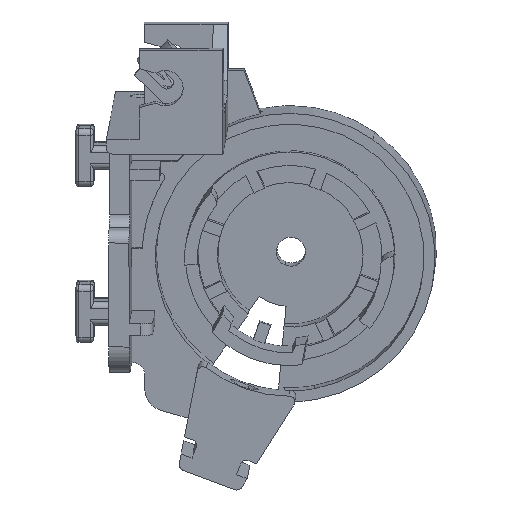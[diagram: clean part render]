
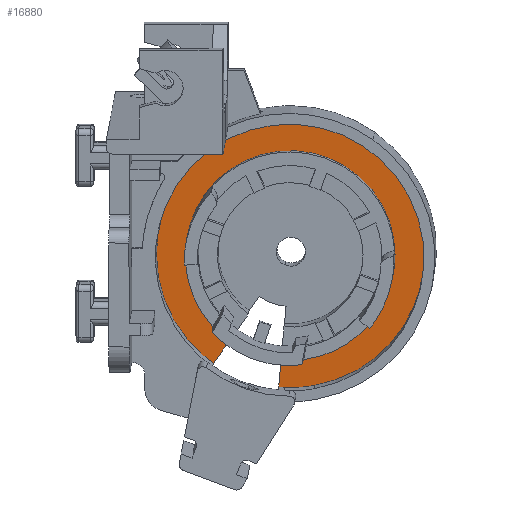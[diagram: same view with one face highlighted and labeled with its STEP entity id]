
A CAD part, left-side view. The second image highlights one B-rep face of the part: STEP entity #16880.
In plain terms, the highlighted planar face has unit normal (-0.992, 0.023, -0.123).
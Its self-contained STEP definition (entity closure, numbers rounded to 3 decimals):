
#5657=AXIS2_PLACEMENT_3D('Circle Axis2P3D',#5655,#5656,$) ;
#13376=AXIS2_PLACEMENT_3D('Circle Axis2P3D',#13374,#13375,$) ;
#13383=AXIS2_PLACEMENT_3D('Circle Axis2P3D',#13381,#13382,$) ;
#13780=AXIS2_PLACEMENT_3D('Circle Axis2P3D',#13778,#13779,$) ;
#13789=AXIS2_PLACEMENT_3D('Circle Axis2P3D',#13787,#13788,$) ;
#13804=AXIS2_PLACEMENT_3D('Circle Axis2P3D',#13802,#13803,$) ;
#13811=AXIS2_PLACEMENT_3D('Circle Axis2P3D',#13809,#13810,$) ;
#13818=AXIS2_PLACEMENT_3D('Circle Axis2P3D',#13816,#13817,$) ;
#16595=AXIS2_PLACEMENT_3D('Circle Axis2P3D',#16593,#16594,$) ;
#16639=AXIS2_PLACEMENT_3D('Circle Axis2P3D',#16637,#16638,$) ;
#16659=AXIS2_PLACEMENT_3D('Circle Axis2P3D',#16657,#16658,$) ;
#16666=AXIS2_PLACEMENT_3D('Circle Axis2P3D',#16664,#16665,$) ;
#16686=AXIS2_PLACEMENT_3D('Circle Axis2P3D',#16684,#16685,$) ;
#16844=AXIS2_PLACEMENT_3D('Plane Axis2P3D',#16841,#16842,#16843) ;
#2754=CARTESIAN_POINT('Vertex',(1129.008,-929.096,239.146)) ;
#2757=CARTESIAN_POINT('Line Origine',(1128.697,-929.313,241.617)) ;
#2761=CARTESIAN_POINT('Vertex',(1128.386,-929.53,244.088)) ;
#5652=CARTESIAN_POINT('Vertex',(1128.828,-935.292,239.414)) ;
#5655=CARTESIAN_POINT('Axis2P3D Location',(1126.146,-931.093,261.88)) ;
#5659=CARTESIAN_POINT('Vertex',(1128.994,-930.096,239.067)) ;
#13371=CARTESIAN_POINT('Vertex',(1127.069,-945.848,251.61)) ;
#13374=CARTESIAN_POINT('Axis2P3D Location',(1126.146,-931.093,261.88)) ;
#13378=CARTESIAN_POINT('Vertex',(1125.725,-949.089,261.851)) ;
#13381=CARTESIAN_POINT('Axis2P3D Location',(1126.146,-931.093,261.88)) ;
#13385=CARTESIAN_POINT('Vertex',(1125.223,-916.339,272.149)) ;
#13778=CARTESIAN_POINT('Axis2P3D Location',(1126.146,-931.093,261.88)) ;
#13782=CARTESIAN_POINT('Vertex',(1128.244,-934.378,244.307)) ;
#13784=CARTESIAN_POINT('Vertex',(1128.374,-930.313,244.035)) ;
#13787=CARTESIAN_POINT('Axis2P3D Location',(1126.146,-931.093,261.88)) ;
#13802=CARTESIAN_POINT('Axis2P3D Location',(1126.146,-931.093,261.88)) ;
#13806=CARTESIAN_POINT('Vertex',(1126.567,-913.098,261.908)) ;
#13809=CARTESIAN_POINT('Axis2P3D Location',(1126.146,-931.093,261.88)) ;
#13813=CARTESIAN_POINT('Vertex',(1127.876,-917.211,250.553)) ;
#13816=CARTESIAN_POINT('Axis2P3D Location',(1126.146,-931.093,261.88)) ;
#13820=CARTESIAN_POINT('Vertex',(1128.198,-920.776,247.274)) ;
#16508=CARTESIAN_POINT('Vertex',(1128.992,-930.097,239.078)) ;
#16512=CARTESIAN_POINT('Control Point',(1128.992,-930.097,239.078)) ;
#16513=CARTESIAN_POINT('Control Point',(1128.994,-930.096,239.067)) ;
#16590=CARTESIAN_POINT('Vertex',(1126.755,-952.282,252.923)) ;
#16593=CARTESIAN_POINT('Axis2P3D Location',(1126.146,-931.093,261.88)) ;
#16615=CARTESIAN_POINT('Vertex',(1125.538,-909.905,270.837)) ;
#16619=CARTESIAN_POINT('Control Point',(1125.608,-954.099,261.843)) ;
#16620=CARTESIAN_POINT('Control Point',(1125.221,-954.095,264.972)) ;
#16621=CARTESIAN_POINT('Control Point',(1124.846,-953.551,268.102)) ;
#16622=CARTESIAN_POINT('Control Point',(1124.499,-952.467,271.11)) ;
#16623=CARTESIAN_POINT('Control Point',(1123.89,-949.307,276.639)) ;
#16624=CARTESIAN_POINT('Control Point',(1123.487,-944.477,280.815)) ;
#16625=CARTESIAN_POINT('Control Point',(1123.347,-941.723,282.469)) ;
#16626=CARTESIAN_POINT('Control Point',(1123.202,-935.758,284.776)) ;
#16627=CARTESIAN_POINT('Control Point',(1123.327,-929.365,284.984)) ;
#16628=CARTESIAN_POINT('Control Point',(1123.458,-926.182,284.538)) ;
#16629=CARTESIAN_POINT('Control Point',(1123.843,-920.103,282.582)) ;
#16630=CARTESIAN_POINT('Control Point',(1124.44,-915.032,278.728)) ;
#16631=CARTESIAN_POINT('Control Point',(1124.781,-912.858,276.383)) ;
#16632=CARTESIAN_POINT('Control Point',(1125.152,-911.133,273.715)) ;
#16633=CARTESIAN_POINT('Control Point',(1125.538,-909.905,270.837)) ;
#16634=CARTESIAN_POINT('Vertex',(1125.608,-954.099,261.843)) ;
#16637=CARTESIAN_POINT('Axis2P3D Location',(1126.146,-931.093,261.88)) ;
#16654=CARTESIAN_POINT('Vertex',(1128.358,-913.346,247.4)) ;
#16657=CARTESIAN_POINT('Axis2P3D Location',(1126.146,-931.093,261.88)) ;
#16661=CARTESIAN_POINT('Vertex',(1126.685,-908.088,261.916)) ;
#16664=CARTESIAN_POINT('Axis2P3D Location',(1126.146,-931.093,261.88)) ;
#16684=CARTESIAN_POINT('Axis2P3D Location',(1126.146,-931.093,261.88)) ;
#16688=CARTESIAN_POINT('Vertex',(1128.769,-917.903,243.207)) ;
#16828=CARTESIAN_POINT('Control Point',(1128.386,-929.53,244.088)) ;
#16829=CARTESIAN_POINT('Control Point',(1128.382,-929.791,244.065)) ;
#16830=CARTESIAN_POINT('Control Point',(1128.378,-930.052,244.047)) ;
#16831=CARTESIAN_POINT('Control Point',(1128.374,-930.313,244.035)) ;
#16841=CARTESIAN_POINT('Axis2P3D Location',(1127.858,-938.824,246.576)) ;
#16847=CARTESIAN_POINT('Control Point',(1128.992,-930.097,239.078)) ;
#16848=CARTESIAN_POINT('Control Point',(1128.996,-929.896,239.087)) ;
#16849=CARTESIAN_POINT('Control Point',(1128.999,-929.696,239.099)) ;
#16850=CARTESIAN_POINT('Control Point',(1129.002,-929.496,239.112)) ;
#16851=CARTESIAN_POINT('Control Point',(1129.005,-929.296,239.128)) ;
#16852=CARTESIAN_POINT('Control Point',(1129.008,-929.096,239.146)) ;
#16854=CARTESIAN_POINT('Line Origine',(1128.483,-919.34,245.24)) ;
#2758=DIRECTION('Vector Direction',(0.124,0.087,-0.988)) ;
#5656=DIRECTION('Axis2P3D Direction',(0.992,-0.023,0.123)) ;
#13375=DIRECTION('Axis2P3D Direction',(-0.992,0.023,-0.123)) ;
#13382=DIRECTION('Axis2P3D Direction',(-0.992,0.023,-0.123)) ;
#13779=DIRECTION('Axis2P3D Direction',(-0.992,0.023,-0.123)) ;
#13788=DIRECTION('Axis2P3D Direction',(-0.992,0.023,-0.123)) ;
#13803=DIRECTION('Axis2P3D Direction',(-0.992,0.023,-0.123)) ;
#13810=DIRECTION('Axis2P3D Direction',(-0.992,0.023,-0.123)) ;
#13817=DIRECTION('Axis2P3D Direction',(-0.992,0.023,-0.123)) ;
#16594=DIRECTION('Axis2P3D Direction',(-0.992,0.023,-0.123)) ;
#16638=DIRECTION('Axis2P3D Direction',(-0.992,0.023,-0.123)) ;
#16658=DIRECTION('Axis2P3D Direction',(-0.992,0.023,-0.123)) ;
#16665=DIRECTION('Axis2P3D Direction',(-0.992,0.023,-0.123)) ;
#16685=DIRECTION('Axis2P3D Direction',(-0.992,0.023,-0.123)) ;
#16842=DIRECTION('Axis2P3D Direction',(-0.992,0.023,-0.123)) ;
#16843=DIRECTION('Axis2P3D XDirection',(-0.026,0.921,0.389)) ;
#16855=DIRECTION('Vector Direction',(-0.114,-0.573,0.811)) ;
#2759=VECTOR('Line Direction',#2758,1.) ;
#16856=VECTOR('Line Direction',#16855,1.) ;
#16860=ORIENTED_EDGE('',*,*,#13822,.F.) ;
#16861=ORIENTED_EDGE('',*,*,#13815,.T.) ;
#16862=ORIENTED_EDGE('',*,*,#13808,.T.) ;
#16863=ORIENTED_EDGE('',*,*,#13387,.T.) ;
#16864=ORIENTED_EDGE('',*,*,#13380,.T.) ;
#16865=ORIENTED_EDGE('',*,*,#13791,.T.) ;
#16866=ORIENTED_EDGE('',*,*,#13786,.T.) ;
#16867=ORIENTED_EDGE('',*,*,#16832,.F.) ;
#16868=ORIENTED_EDGE('',*,*,#2763,.T.) ;
#16869=ORIENTED_EDGE('',*,*,#16853,.F.) ;
#16870=ORIENTED_EDGE('',*,*,#16514,.F.) ;
#16871=ORIENTED_EDGE('',*,*,#5661,.F.) ;
#16872=ORIENTED_EDGE('',*,*,#16597,.T.) ;
#16873=ORIENTED_EDGE('',*,*,#16641,.F.) ;
#16874=ORIENTED_EDGE('',*,*,#16636,.F.) ;
#16875=ORIENTED_EDGE('',*,*,#16668,.T.) ;
#16876=ORIENTED_EDGE('',*,*,#16663,.T.) ;
#16877=ORIENTED_EDGE('',*,*,#16690,.T.) ;
#16878=ORIENTED_EDGE('',*,*,#16858,.F.) ;
#16880=ADVANCED_FACE('20200707\X2\66F465B0\X0\',(#16879),#16845,.T.) ;
#16511=B_SPLINE_CURVE_WITH_KNOTS('',1,(#16512,#16513),.UNSPECIFIED.,.F.,.U.,(2,2),(5.,5.012),.UNSPECIFIED.) ;
#16618=B_SPLINE_CURVE_WITH_KNOTS('',5,(#16619,#16620,#16621,#16622,#16623,#16624,#16625,#16626,#16627,#16628,#16629,#16630,#16631,#16632,#16633),.UNSPECIFIED.,.F.,.U.,(6,3,3,3,6),(-137.008,-68.504,0.,68.504,137.008),.UNSPECIFIED.) ;
#16827=B_SPLINE_CURVE_WITH_KNOTS('',3,(#16828,#16829,#16830,#16831),.UNSPECIFIED.,.F.,.U.,(4,4),(0.,1.111),.UNSPECIFIED.) ;
#16846=B_SPLINE_CURVE_WITH_KNOTS('',5,(#16847,#16848,#16849,#16850,#16851,#16852),.UNSPECIFIED.,.F.,.U.,(6,6),(0.,1.419),.UNSPECIFIED.) ;
#5658=CIRCLE('generated circle',#5657,23.012) ;
#13377=CIRCLE('generated circle',#13376,18.) ;
#13384=CIRCLE('generated circle',#13383,18.) ;
#13781=CIRCLE('generated circle',#13780,18.) ;
#13790=CIRCLE('generated circle',#13789,18.) ;
#13805=CIRCLE('generated circle',#13804,18.) ;
#13812=CIRCLE('generated circle',#13811,18.) ;
#13819=CIRCLE('generated circle',#13818,18.) ;
#16596=CIRCLE('generated circle',#16595,23.012) ;
#16640=CIRCLE('generated circle',#16639,23.012) ;
#16660=CIRCLE('generated circle',#16659,23.012) ;
#16667=CIRCLE('generated circle',#16666,23.012) ;
#16687=CIRCLE('generated circle',#16686,23.012) ;
#2763=EDGE_CURVE('',#2762,#2755,#2760,.T.) ;
#5661=EDGE_CURVE('',#5653,#5660,#5658,.T.) ;
#13380=EDGE_CURVE('',#13379,#13372,#13377,.F.) ;
#13387=EDGE_CURVE('',#13386,#13379,#13384,.F.) ;
#13786=EDGE_CURVE('',#13783,#13785,#13781,.F.) ;
#13791=EDGE_CURVE('',#13372,#13783,#13790,.F.) ;
#13808=EDGE_CURVE('',#13807,#13386,#13805,.F.) ;
#13815=EDGE_CURVE('',#13814,#13807,#13812,.F.) ;
#13822=EDGE_CURVE('',#13814,#13821,#13819,.T.) ;
#16514=EDGE_CURVE('',#5660,#16509,#16511,.F.) ;
#16597=EDGE_CURVE('',#5653,#16591,#16596,.T.) ;
#16636=EDGE_CURVE('',#16616,#16635,#16618,.F.) ;
#16641=EDGE_CURVE('',#16635,#16591,#16640,.F.) ;
#16663=EDGE_CURVE('',#16662,#16655,#16660,.T.) ;
#16668=EDGE_CURVE('',#16616,#16662,#16667,.T.) ;
#16690=EDGE_CURVE('',#16655,#16689,#16687,.T.) ;
#16832=EDGE_CURVE('',#2762,#13785,#16827,.T.) ;
#16853=EDGE_CURVE('',#16509,#2755,#16846,.T.) ;
#16858=EDGE_CURVE('',#13821,#16689,#16857,.F.) ;
#16859=EDGE_LOOP('',(#16860,#16861,#16862,#16863,#16864,#16865,#16866,#16867,#16868,#16869,#16870,#16871,#16872,#16873,#16874,#16875,#16876,#16877,#16878)) ;
#16879=FACE_OUTER_BOUND('',#16859,.T.) ;
#2760=LINE('Line',#2757,#2759) ;
#16857=LINE('Line',#16854,#16856) ;
#16845=PLANE('Plane',#16844) ;
#2755=VERTEX_POINT('',#2754) ;
#2762=VERTEX_POINT('',#2761) ;
#5653=VERTEX_POINT('',#5652) ;
#5660=VERTEX_POINT('',#5659) ;
#13372=VERTEX_POINT('',#13371) ;
#13379=VERTEX_POINT('',#13378) ;
#13386=VERTEX_POINT('',#13385) ;
#13783=VERTEX_POINT('',#13782) ;
#13785=VERTEX_POINT('',#13784) ;
#13807=VERTEX_POINT('',#13806) ;
#13814=VERTEX_POINT('',#13813) ;
#13821=VERTEX_POINT('',#13820) ;
#16509=VERTEX_POINT('',#16508) ;
#16591=VERTEX_POINT('',#16590) ;
#16616=VERTEX_POINT('',#16615) ;
#16635=VERTEX_POINT('',#16634) ;
#16655=VERTEX_POINT('',#16654) ;
#16662=VERTEX_POINT('',#16661) ;
#16689=VERTEX_POINT('',#16688) ;
